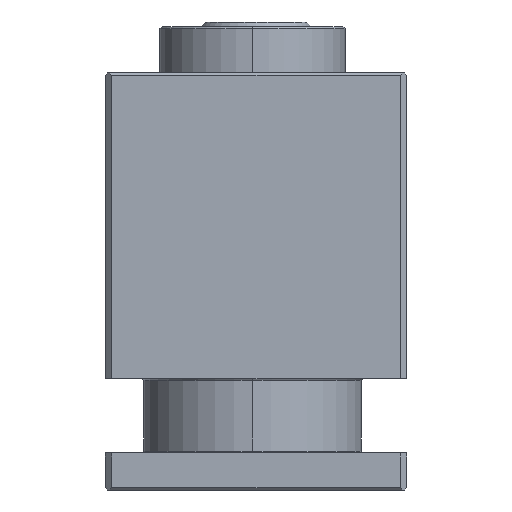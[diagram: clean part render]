
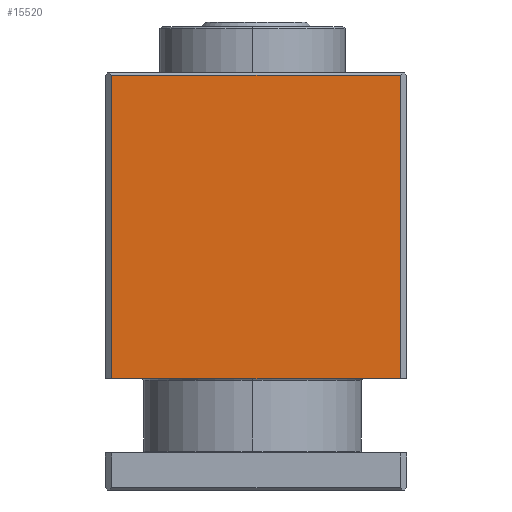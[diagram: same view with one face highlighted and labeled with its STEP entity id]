
A CAD part, left-side view. The second image highlights one B-rep face of the part: STEP entity #15520.
In plain terms, the highlighted planar face has unit normal (-1, 0, 0).
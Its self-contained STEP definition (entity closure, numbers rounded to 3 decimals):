
#301 = VECTOR ( 'NONE', #6662, 1000. ) ;
#861 = CARTESIAN_POINT ( 'NONE',  ( 23.547, 7.409, -50. ) ) ;
#2000 = DIRECTION ( 'NONE',  ( 0., -1., 0. ) ) ;
#2266 = CARTESIAN_POINT ( 'NONE',  ( 23.547, 71.034, 39.5 ) ) ;
#3347 = VERTEX_POINT ( 'NONE', #2266 ) ;
#4014 = ORIENTED_EDGE ( 'NONE', *, *, #12999, .F. ) ;
#5295 = CARTESIAN_POINT ( 'NONE',  ( 23.547, 71.034, -26. ) ) ;
#5664 = VECTOR ( 'NONE', #16459, 1000. ) ;
#5945 = CARTESIAN_POINT ( 'NONE',  ( 23.547, 71.034, 40. ) ) ;
#6662 = DIRECTION ( 'NONE',  ( 0., 0., -1. ) ) ;
#7493 = DIRECTION ( 'NONE',  ( -1., 0., 0. ) ) ;
#7903 = EDGE_CURVE ( 'NONE', #15820, #3347, #20808, .T. ) ;
#8500 = EDGE_LOOP ( 'NONE', ( #9583, #16101, #4014, #11314 ) ) ;
#9110 = LINE ( 'NONE', #21020, #9939 ) ;
#9583 = ORIENTED_EDGE ( 'NONE', *, *, #12487, .F. ) ;
#9905 = CARTESIAN_POINT ( 'NONE',  ( 23.547, 8.785, 39.5 ) ) ;
#9939 = VECTOR ( 'NONE', #2000, 1000. ) ;
#10286 = LINE ( 'NONE', #22291, #301 ) ;
#10913 = DIRECTION ( 'NONE',  ( 0., 1., 0. ) ) ;
#11207 = PLANE ( 'NONE',  #16430 ) ;
#11314 = ORIENTED_EDGE ( 'NONE', *, *, #13400, .T. ) ;
#12106 = VERTEX_POINT ( 'NONE', #20971 ) ;
#12487 = EDGE_CURVE ( 'NONE', #15820, #12106, #10286, .T. ) ;
#12999 = EDGE_CURVE ( 'NONE', #13930, #3347, #19700, .T. ) ;
#13400 = EDGE_CURVE ( 'NONE', #13930, #12106, #9110, .T. ) ;
#13930 = VERTEX_POINT ( 'NONE', #5295 ) ;
#14035 = FACE_OUTER_BOUND ( 'NONE', #8500, .T. ) ;
#15520 = ADVANCED_FACE ( 'NONE', ( #14035 ), #11207, .T. ) ;
#15820 = VERTEX_POINT ( 'NONE', #9905 ) ;
#16101 = ORIENTED_EDGE ( 'NONE', *, *, #7903, .T. ) ;
#16229 = VECTOR ( 'NONE', #10913, 1000. ) ;
#16430 = AXIS2_PLACEMENT_3D ( 'NONE', #861, #7493, #18028 ) ;
#16459 = DIRECTION ( 'NONE',  ( 0., 0., 1. ) ) ;
#18028 = DIRECTION ( 'NONE',  ( 0., 0., 1. ) ) ;
#19700 = LINE ( 'NONE', #5945, #5664 ) ;
#20808 = LINE ( 'NONE', #21251, #16229 ) ;
#20971 = CARTESIAN_POINT ( 'NONE',  ( 23.547, 8.785, -26. ) ) ;
#21020 = CARTESIAN_POINT ( 'NONE',  ( 23.547, 40.659, -26. ) ) ;
#21251 = CARTESIAN_POINT ( 'NONE',  ( 23.547, 71.034, 39.5 ) ) ;
#22291 = CARTESIAN_POINT ( 'NONE',  ( 23.547, 8.785, 40. ) ) ;
